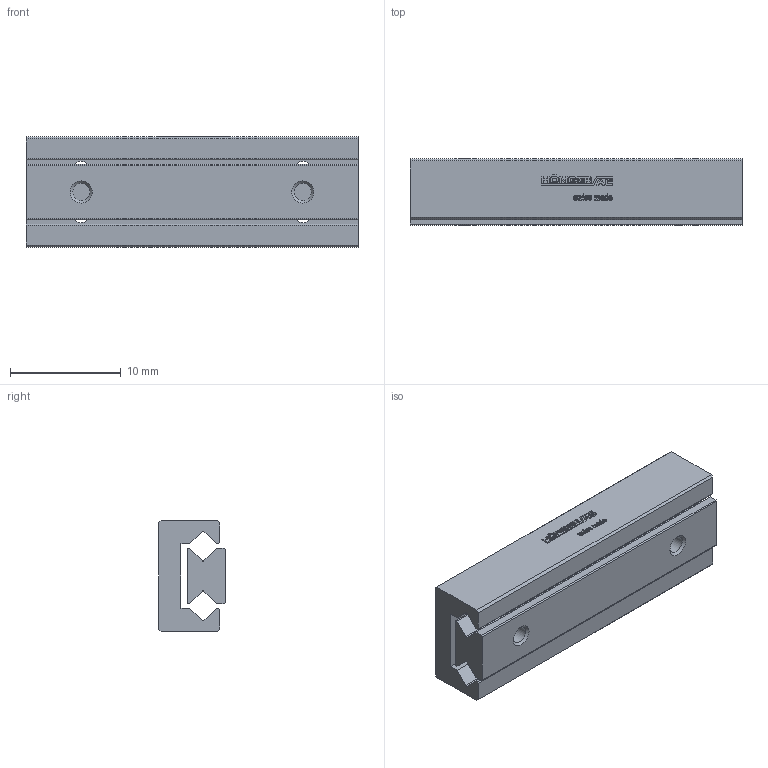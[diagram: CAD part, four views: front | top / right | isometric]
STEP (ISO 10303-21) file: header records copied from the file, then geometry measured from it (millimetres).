
FILE_DESCRIPTION(/* description */ ('STEP AP214'),/* implementation_level */ '2;1');
FILE_NAME(/* name */ 'MSR 5-30.25(0)',/* time_stamp */ '2025-04-16T17:18:07+02:00',/* author */ ('License CC BY-ND 4.0'),/* organization */ ('CADENAS'),/* preprocessor_version */ 'ST-DEVELOPER v19.3',/* originating_system */ 'PARTsolutions',/* authorisation */ ' ');
FILE_SCHEMA (('AUTOMOTIVE_DESIGN {1 0 10303 214 3 1 1}'));
Length unit declared in the file: millimetre
Products named in the file (3): MSR 5-30.25(0); MSR 5-30.25_1; MSR 5-30.25_2
Assembly tree (2 placements, depth 2):
  MSR 5-30.25(0)
    MSR 5-30.25_1
    MSR 5-30.25_2
Bounding box: 30 x 6 x 10 mm (x, y, z)
Volume: 1342.2 mm3; surface area: 1886 mm2
Topology: 2 solids, 2 shells, 521 faces, 1466 edges, 976 vertices
Faces by surface type: cylinder 302, plane 211, cone 8
Full cylindrical faces by diameter (mm): 1.567 x6
Entity records: 17053 total; most frequent: DIRECTION 3108, CARTESIAN_POINT 2944, ORIENTED_EDGE 2896, EDGE_CURVE 1448, AXIS2_PLACEMENT_3D 1136, VERTEX_POINT 972, LINE 836, VECTOR 836
